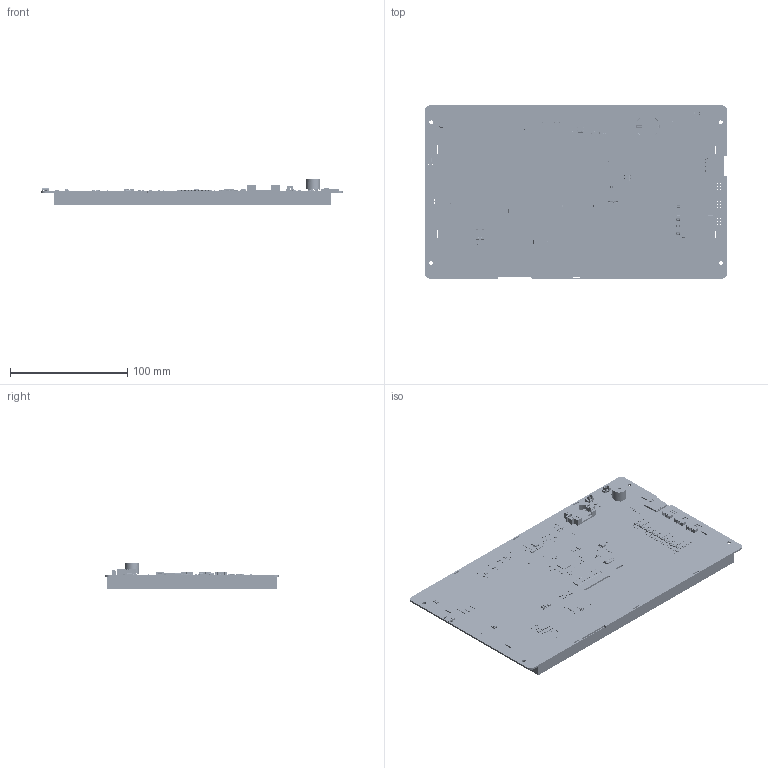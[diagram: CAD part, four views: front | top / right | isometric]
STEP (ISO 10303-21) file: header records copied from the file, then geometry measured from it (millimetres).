
FILE_DESCRIPTION(/* description */ ('Open CASCADE Model'),/* implementation_level */ '2;1');
FILE_NAME(/* name */ 'P10600-101T-L0101.stp',/* time_stamp */ '2026-01-22T16:58:58-03:00',/* author */ ('Reservaa'),/* organization */ ('Open CASCADE'),/* preprocessor_version */ 'ST-DEVELOPER v20',/* originating_system */ 'Autodesk Inventor 2024',/* authorisation */ 'Unknown');
FILE_SCHEMA (('AUTOMOTIVE_DESIGN { 1 0 10303 214 3 1 1 }'));
Products named in the file (376): PCB; Board; Open CASCADE STEP translator 7.5 7.1.1; FPC2; CTP_FPC_6P_0.5MM_UP; wW1P-FPC1-FPC-SMD_P0.50-6P_LCS-SJ-H2.0; COMPOUND; LCD; 1225123; Open CASCADE STEP translator 7.5 7.3.1.1; Open CASCADE STEP translator 7.5 7.3.1.2; Open CASCADE STEP translator 7.5 7.3.1.3; Open CASCADE STEP translator 7.5 7.3.1.4; Open CASCADE STEP translator 7.5 7.3.1.5; Open CASCADE STEP translator 7.5 7.3.1.6; Open CASCADE STEP translator 7.5 7.3.1.7; Open CASCADE STEP translator 7.5 7.3.1.8; Open CASCADE STEP translator 7.5 7.3.1.9; Open CASCADE STEP translator 7.5 7.3.1.10; Open CASCADE STEP translator 7.5 7.3.1.11; Open CASCADE STEP translator 7.5 7.3.1.12; Open CASCADE STEP translator 7.5 7.3.1.13; Open CASCADE STEP translator 7.5 7.3.1.14; Open CASCADE STEP translator 7.5 7.3.1.15; Open CASCADE STEP translator 7.5 7.3.1.16; Open CASCADE STEP translator 7.5 7.3.1.17; Open CASCADE STEP translator 7.5 7.3.1.18; Open CASCADE STEP translator 7.5 7.3.1.19; Open CASCADE STEP translator 7.5 7.3.1.20; Open CASCADE STEP translator 7.5 7.3.1.21; Open CASCADE STEP translator 7.5 7.3.1.22; Open CASCADE STEP translator 7.5 7.3.1.23; Open CASCADE STEP translator 7.5 7.3.1.24; Open CASCADE STEP translator 7.5 7.3.1.25; Open CASCADE STEP translator 7.5 7.3.1.26; Open CASCADE STEP translator 7.5 7.3.1.27; Open CASCADE STEP translator 7.5 7.3.1.28; Open CASCADE STEP translator 7.5 7.3.1.29; Open CASCADE STEP translator 7.5 7.3.1.30; Open CASCADE STEP translator 7.5 7.3.1.31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
Assembly tree (617 placements, depth 8):
  PCB
    Board
      Open CASCADE STEP translator 7.5 7.1.1
    FPC2
      CTP_FPC_6P_0.5MM_UP
        wW1P-FPC1-FPC-SMD_P0.50-6P_LCS-SJ-H2.0
          COMPOUND
    LCD
      1225123
        Open CASCADE STEP translator 7.5 7.3.1.1
        Open CASCADE STEP translator 7.5 7.3.1.2
        Open CASCADE STEP translator 7.5 7.3.1.3
        Open CASCADE STEP translator 7.5 7.3.1.4
        Open CASCADE STEP translator 7.5 7.3.1.5
        Open CASCADE STEP translator 7.5 7.3.1.6
        Open CASCADE STEP translator 7.5 7.3.1.7
        Open CASCADE STEP translator 7.5 7.3.1.8
        Open CASCADE STEP translator 7.5 7.3.1.9
        Open CASCADE STEP translator 7.5 7.3.1.10
        Open CASCADE STEP translator 7.5 7.3.1.11
        Open CASCADE STEP translator 7.5 7.3.1.12
        Open CASCADE STEP translator 7.5 7.3.1.13
        Open CASCADE STEP translator 7.5 7.3.1.14
        Open CASCADE STEP translator 7.5 7.3.1.15
        Open CASCADE STEP translator 7.5 7.3.1.16
        Open CASCADE STEP translator 7.5 7.3.1.17
        Open CASCADE STEP translator 7.5 7.3.1.18
        Open CASCADE STEP translator 7.5 7.3.1.19
        Open CASCADE STEP translator 7.5 7.3.1.20
        Open CASCADE STEP translator 7.5 7.3.1.21
        Open CASCADE STEP translator 7.5 7.3.1.22
        Open CASCADE STEP translator 7.5 7.3.1.23
        Open CASCADE STEP translator 7.5 7.3.1.24
        Open CASCADE STEP translator 7.5 7.3.1.25
        Open CASCADE STEP translator 7.5 7.3.1.26
        Open CASCADE STEP translator 7.5 7.3.1.27
        Open CASCADE STEP translator 7.5 7.3.1.28
        Open CASCADE STEP translator 7.5 7.3.1.29
        Open CASCADE STEP translator 7.5 7.3.1.30
        Open CASCADE STEP translator 7.5 7.3.1.31
        Open CASCADE STEP translator 7.5 7.3.1.32
        Open CASCADE STEP translator 7.5 7.3.1.33
        Open CASCADE STEP translator 7.5 7.3.1.34
        Open CASCADE STEP translator 7.5 7.3.1.35
        Open CASCADE STEP translator 7.5 7.3.1.36
        Open CASCADE STEP translator 7.5 7.3.1.37
        Open CASCADE STEP translator 7.5 7.3.1.38
        Open CASCADE STEP translator 7.5 7.3.1.39
        Open CASCADE STEP translator 7.5 7.3.1.40
        Open CASCADE STEP translator 7.5 7.3.1.41
        Open CASCADE STEP translator 7.5 7.3.1.42
        Open CASCADE STEP translator 7.5 7.3.1.43
        Open CASCADE STEP translator 7.5 7.3.1.44
        Open CASCADE STEP translator 7.5 7.3.1.45
        Open CASCADE STEP translator 7.5 7.3.1.46
        Open CASCADE STEP translator 7.5 7.3.1.47
        Open CASCADE STEP translator 7.5 7.3.1.48
        Open CASCADE STEP translator 7.5 7.3.1.49
        Open CASCADE STEP translator 7.5 7.3.1.50
        Open CASCADE STEP translator 7.5 7.3.1.51
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Bounding box: 257.84 x 148.11 x 22.6 mm (x, y, z)
Volume: 415450.4 mm3; surface area: 233808.4 mm2
Topology: 1024 solids, 1024 shells, 40299 faces, 104686 edges, 67640 vertices
Faces by surface type: plane 22337, bspline 12791, cylinder 4283, sphere 838, torus 42, cone 8
Full cylindrical faces by diameter (mm): 0.4 x4, 0.5 x6, 0.6 x2, 0.7 x1, 0.8 x2, 1 x5, 1.1 x25, 1.2 x2, 1.5 x1, 1.8 x1, 2 x3, 2.5 x1, 3.2 x4, 7.517 x1, 12 x1
Entity records: 435961 total; most frequent: CARTESIAN_POINT 119637, ORIENTED_EDGE 64864, DIRECTION 57524, EDGE_CURVE 32432, LINE 24864, VECTOR 24864, VERTEX_POINT 21334, AXIS2_PLACEMENT_3D 16330
